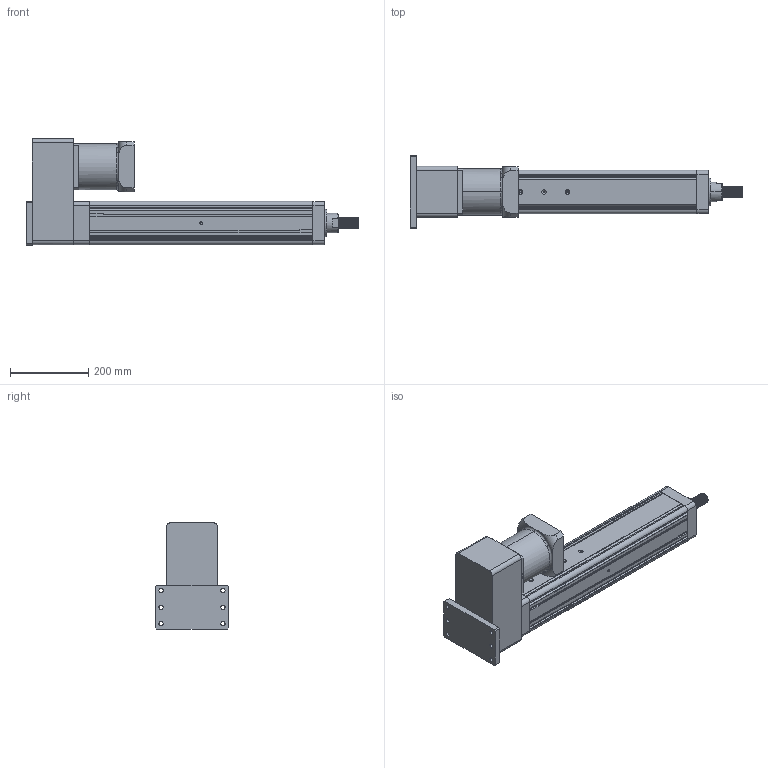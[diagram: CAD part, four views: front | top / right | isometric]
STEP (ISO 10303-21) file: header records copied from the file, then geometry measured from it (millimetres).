
FILE_DESCRIPTION (( 'STEP AP203' ), '1' );
FILE_NAME ('YRJ110-L400-H4K1.STEP', '2020-01-06T02:00:09', ( 'User' ), ( 'China' ), 'SwSTEP 2.0', 'SolidWorks 2016', '' );
FILE_SCHEMA (( 'CONFIG_CONTROL_DESIGN' ));
Length unit declared in the file: millimetre
Products named in the file (8): H3-110-2; H4-110; 120遺1500W珨撰熬厒儂; K1-110; YRJ110-L400-H4K1; 095-100俴最倰第; H5-110-1; 萇儂碟-110
Assembly tree (7 placements, depth 2):
  YRJ110-L400-H4K1
    095-100俴最倰第
    H5-110-1
    萇儂碟-110
    H3-110-2
    H4-110
    120遺1500W珨撰熬厒儂
    K1-110
Bounding box: 847 x 185 x 271 mm (x, y, z)
Volume: 9075498.4 mm3; surface area: 920908.5 mm2
Topology: 7 solids, 7 shells, 373 faces, 1016 edges, 652 vertices
Faces by surface type: cylinder 168, plane 163, cone 29, bspline 8, torus 5
Entity records: 20627 total; most frequent: CARTESIAN_POINT 10508, ORIENTED_EDGE 2000, DIRECTION 1881, EDGE_CURVE 1000, VERTEX_POINT 652, AXIS2_PLACEMENT_3D 649, LINE 583, VECTOR 583
